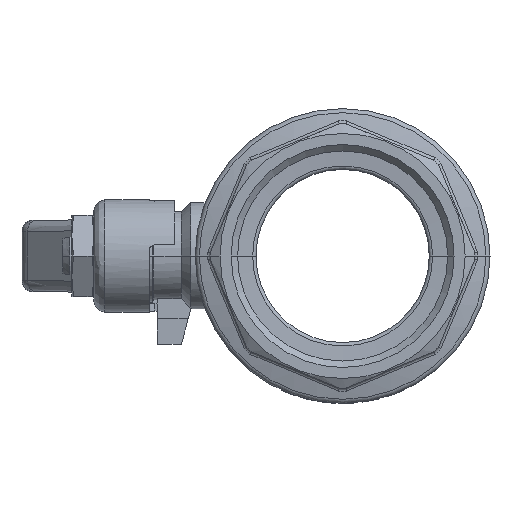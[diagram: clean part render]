
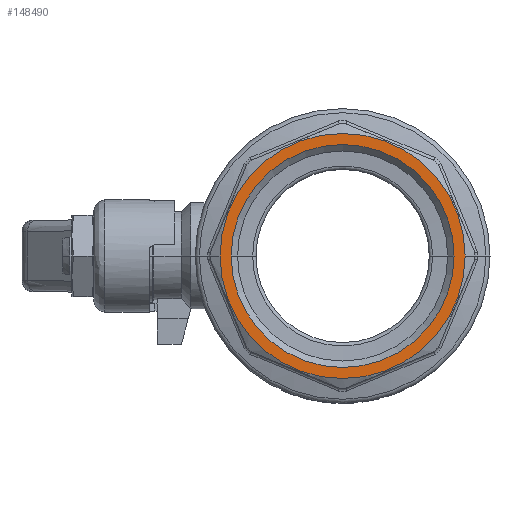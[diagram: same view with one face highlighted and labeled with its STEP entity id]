
A CAD part, left-side view. The second image highlights one B-rep face of the part: STEP entity #148490.
In plain terms, the highlighted planar face has unit normal (-1, 0, 0) as drawn and (1, 0, 0) by its records, which use the part's own axes.
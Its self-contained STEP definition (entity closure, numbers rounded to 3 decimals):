
#147920=CARTESIAN_POINT('',(51.5,33.25,0.));
#147930=VERTEX_POINT('',#147920);
#148100=CARTESIAN_POINT('',(51.5,-33.25,
0.));
#148110=VERTEX_POINT('',#148100);
#148140=CARTESIAN_POINT('',(51.5,0.,0.));
#148150=DIRECTION('',(1.,0.,0.));
#148160=DIRECTION('',(0.,1.,0.));
#148170=AXIS2_PLACEMENT_3D('',#148140,#148150,#148160);
#148180=CIRCLE('',#148170,33.25);
#148190=EDGE_CURVE('',#148110,#147930,#148180,.T.);
#148240=CARTESIAN_POINT('',(51.5,31.75,0.));
#148250=DIRECTION('',(1.,0.,0.));
#148260=DIRECTION('',(0.,-1.,0.));
#148270=AXIS2_PLACEMENT_3D('',#148240,#148250,#148260);
#148280=PLANE('',#148270);
#148290=CARTESIAN_POINT('',(51.5,0.,0.));
#148300=DIRECTION('',(1.,0.,0.));
#148310=DIRECTION('',(0.,1.,0.));
#148320=AXIS2_PLACEMENT_3D('',#148290,#148300,#148310);
#148330=CIRCLE('',#148320,30.25);
#148340=CARTESIAN_POINT('',(51.5,30.25,0.
));
#148350=VERTEX_POINT('',#148340);
#148360=CARTESIAN_POINT('',(51.5,-30.25,0.));
#148370=VERTEX_POINT('',#148360);
#148380=EDGE_CURVE('',#148350,#148370,#148330,.T.);
#148390=ORIENTED_EDGE('',*,*,#148380,.F.);
#148400=EDGE_CURVE('',#148370,#148350,#148330,.T.);
#148410=ORIENTED_EDGE('',*,*,#148400,.F.);
#148420=EDGE_LOOP('',(#148410,#148390));
#148430=FACE_BOUND('',#148420,.T.);
#148440=EDGE_CURVE('',#147930,#148110,#148180,.T.);
#148450=ORIENTED_EDGE('',*,*,#148440,.T.);
#148460=ORIENTED_EDGE('',*,*,#148190,.T.);
#148470=EDGE_LOOP('',(#148460,#148450));
#148480=FACE_OUTER_BOUND('',#148470,.T.);
#148490=ADVANCED_FACE('',(#148430,#148480),#148280,.T.);
